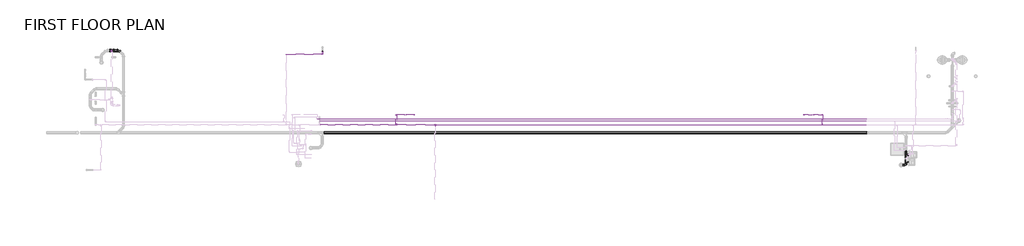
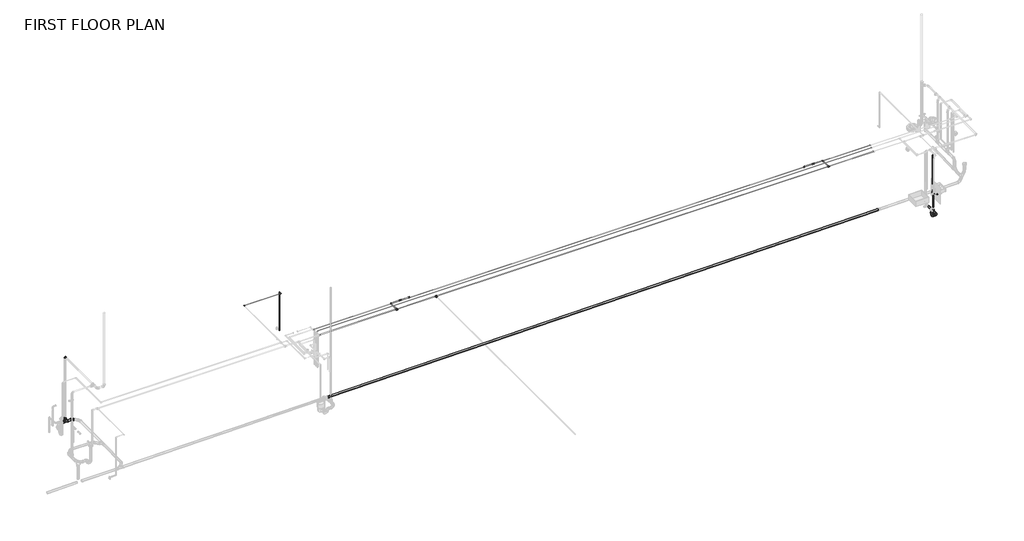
# One storey, part 6 of 9: 29 pipe fittings, 28 pipe segments.
"""IFC4 building model written with IfcOpenShell, lengths in millimetres."""

from ifc_helpers import new_model, si_unit, point, frame, frame_2d, origin, place, context, project, spatial, circle_curve, trimmed, segment, composite_curve, outline, extrude, transform, mapped, element, save
from components import bend_pvc_sch_40_dwv_standard_a4b99d37, bend_pvc_sch_40_dwv_standard_1eaeee76, bend_pvc_sch_40_dwv_standard_2f0b991a, coupling_generic_copper_k_b13a3064, coupling_generic_copper_k_3e2081e2, coupling_concentric_reducing_threaded_mi_class_150_standard_01227178, pipe_elbow_copper_k_feaaf02c, pipe_elbow_copper_k_557be1fc, pipe_elbow_copper_k_aad62f2d, pipe_tee_copper_k_36278b8a, pipe_tee_copper_k_7127fd44, pipe_transition_copper_k_b05302ca, pipe_transition_copper_k_3b8d3413, pipe_transition_copper_k_cb06518f, reducer_pvc_sch_40_dwv_standard_07db09cb, tee_sanitary_pvc_sch_40_dwv_standard_a3f514f4, tee_sanitary_pvc_sch_40_dwv_standard_246ccaa4

model = new_model("IFC4")

# Units and contexts
model_context = context("Model", 3, world=origin())
ifc_project = project(units=[si_unit("LENGTHUNIT", "METRE", prefix="MILLI")], contexts=[model_context])

# Site, building, storey
site = spatial("IfcSite", under=ifc_project)
building = spatial("IfcBuilding", under=site)
storey = spatial("IfcBuildingStorey", under=building, Name="FIRST FLOOR PLAN", Elevation=0.0)

# Pipe fittings
placement = place(None, origin())
bend_pvc_sch_40_dwv_standard_shape = bend_pvc_sch_40_dwv_standard_a4b99d37(model_context)
element("IfcPipeFitting", 1, ObjectType="Bend - PVC - Sch 40 - DWV : Standard", at=placement, inside=storey, context=model_context, shape_type="MappedRepresentation", body=[
    mapped(bend_pvc_sch_40_dwv_standard_shape, transform((34433.0661844, 3290.6230475, -452.4488537), x_axis=(0.0, 0.0, -1.0), y_axis=(1.0, 0.0, 0.0), z_axis=(0.0, -1.0, 0.0))),
])
element("IfcPipeFitting", 2, ObjectType="Bend - PVC - Sch 40 - DWV : Standard", at=placement, inside=storey, context=model_context, shape_type="MappedRepresentation", body=[
    mapped(bend_pvc_sch_40_dwv_standard_shape, transform((34740.284761, 3290.6230475, -452.4488537), x_axis=(1.0, 0.0, 0.0), y_axis=(0.0, 0.9999458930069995, -0.010402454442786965), z_axis=(0.0, 0.010402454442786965, 0.9999458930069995))),
])
bend_pvc_sch_40_dwv_standard_2_shape = bend_pvc_sch_40_dwv_standard_1eaeee76(model_context)
element("IfcPipeFitting", 3, ObjectType="Bend - PVC - Sch 40 - DWV : Standard", at=placement, inside=storey, context=model_context, shape_type="MappedRepresentation", body=[
    mapped(bend_pvc_sch_40_dwv_standard_2_shape, transform((-12967.606428, 10162.1346554, 3161.3463759), x_axis=(0.0, 0.0, 1.0), y_axis=(0.0, -1.0, 0.0), z_axis=(1.0, 0.0, 0.0))),
])
bend_pvc_sch_40_dwv_standard_3_shape = bend_pvc_sch_40_dwv_standard_2f0b991a(model_context)
element("IfcPipeFitting", 4, ObjectType="Bend - PVC - Sch 40 - DWV : Standard", at=placement, inside=storey, context=model_context, shape_type="MappedRepresentation", body=[
    mapped(bend_pvc_sch_40_dwv_standard_3_shape, transform((-12539.9508893, 10162.1496246, -909.2982046), x_axis=(-0.7070887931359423, 0.7070480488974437, 0.01041610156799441), y_axis=(-0.7070120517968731, -0.7071623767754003, 0.0074385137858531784), z_axis=(0.012625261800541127, -0.002104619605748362, 0.9999180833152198))),
])
coupling_generic_copper_k_shape = coupling_generic_copper_k_b13a3064(model_context)
element("IfcPipeFitting", 5, ObjectType="Coupling - Generic : Copper- K", at=placement, inside=storey, context=model_context, shape_type="MappedRepresentation", body=[
    mapped(coupling_generic_copper_k_shape, transform((5223.0550302, 6318.2433828, 2847.5440079), x_axis=(1.0, 0.0, 0.0), y_axis=(0.0, 1.0, 0.0), z_axis=(0.0, 0.0, 1.0))),
])
coupling_generic_copper_k_2_shape = coupling_generic_copper_k_3e2081e2(model_context)
element("IfcPipeFitting", 6, ObjectType="Coupling - Generic : Copper- K", at=placement, inside=storey, context=model_context, shape_type="MappedRepresentation", body=[
    mapped(coupling_generic_copper_k_2_shape, transform((28615.7305388, 6302.1516393, 2847.5440079), x_axis=(-1.0, 0.0, 0.0), y_axis=(0.0, -1.0, 0.0), z_axis=(0.0, 0.0, 1.0))),
])
coupling_concentric_reducing_threaded_mi_class_150_standard_shape = coupling_concentric_reducing_threaded_mi_class_150_standard_01227178(model_context)
element("IfcPipeFitting", 7, ObjectType="Coupling Concentric Reducing - Threaded - MI - Class 150 : Standard", at=placement, inside=storey, context=model_context, shape_type="MappedRepresentation", body=[
    mapped(coupling_concentric_reducing_threaded_mi_class_150_standard_shape, transform((34433.0661844, 3290.6230475, -225.2486537), x_axis=(0.0, 0.0, -1.0), y_axis=(0.0, -1.0, 0.0), z_axis=(-1.0, 0.0, 0.0))),
])
pipe_elbow_copper_k_shape = pipe_elbow_copper_k_feaaf02c(model_context)
element("IfcPipeFitting", 8, ObjectType="Pipe Elbow : Copper- K", at=placement, inside=storey, context=model_context, shape_type="MappedRepresentation", body=[
    mapped(pipe_elbow_copper_k_shape, transform((-301.2378963, 10090.1355294, 410.36875), x_axis=(0.0, -1.0, 0.0), y_axis=(0.0, 0.0, 1.0), z_axis=(-1.0, 0.0, 0.0))),
])
element("IfcPipeFitting", 9, ObjectType="Pipe Elbow : Copper- K", at=placement, inside=storey, context=model_context, shape_type="MappedRepresentation", body=[
    mapped(pipe_elbow_copper_k_shape, transform((-301.2378963, 10090.1355294, 2823.36875), x_axis=(0.0, 0.0, 1.0), y_axis=(0.0, -1.0, 0.0), z_axis=(1.0, 0.0, 0.0))),
])
element("IfcPipeFitting", 10, ObjectType="Pipe Elbow : Copper- K", at=placement, inside=storey, context=model_context, shape_type="MappedRepresentation", body=[
    mapped(pipe_elbow_copper_k_shape, transform((-301.2378963, 9937.7355294, 2823.36875), x_axis=(1.0, 0.0, 0.0), y_axis=(0.0, 1.0, 0.0), z_axis=(0.0, 0.0, 1.0))),
])
element("IfcPipeFitting", 11, ObjectType="Pipe Elbow : Copper- K", at=placement, inside=storey, context=model_context, shape_type="MappedRepresentation", body=[
    mapped(pipe_elbow_copper_k_shape, transform((-2485.6378963, 9937.7355294, 2823.36875), x_axis=(-1.0, 0.0, 0.0), y_axis=(0.0, -1.0, 0.0), z_axis=(0.0, 0.0, 1.0))),
])
pipe_elbow_copper_k_2_shape = pipe_elbow_copper_k_557be1fc(model_context)
element("IfcPipeFitting", 12, ObjectType="Pipe Elbow : Copper- K", at=placement, inside=storey, context=model_context, shape_type="MappedRepresentation", body=[
    mapped(pipe_elbow_copper_k_2_shape, transform((4119.7425302, 6318.2433828, 2847.5440079), x_axis=(-1.0, 0.0, 0.0), y_axis=(0.0, -0.9999999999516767, -9.830902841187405e-06), z_axis=(0.0, -9.830902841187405e-06, 0.9999999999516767))),
])
element("IfcPipeFitting", 13, ObjectType="Pipe Elbow : Copper- K", at=placement, inside=storey, context=model_context, shape_type="MappedRepresentation", body=[
    mapped(pipe_elbow_copper_k_2_shape, transform((29719.0430388, 6302.1516393, 2847.5440505), x_axis=(0.0, 0.9999999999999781, 2.0973754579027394e-07), y_axis=(-0.9999999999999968, 0.0, -8.11703543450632e-08), z_axis=(-8.117035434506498e-08, -2.097375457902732e-07, 0.9999999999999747))),
])
pipe_elbow_copper_k_3_shape = pipe_elbow_copper_k_aad62f2d(model_context)
element("IfcPipeFitting", 14, ObjectType="Pipe Elbow : Copper- K", at=placement, inside=storey, context=model_context, shape_type="MappedRepresentation", body=[
    mapped(pipe_elbow_copper_k_3_shape, transform((34847.4355779, 3935.1645979, 2847.578125), x_axis=(0.0, 0.0, 1.0), y_axis=(1.0, 0.0, 0.0), z_axis=(0.0, 1.0, 0.0))),
])
pipe_tee_copper_k_shape = pipe_tee_copper_k_36278b8a(model_context)
element("IfcPipeFitting", 15, ObjectType="Pipe Tee : Copper- K", at=placement, inside=storey, context=model_context, shape_type="MappedRepresentation", body=[
    mapped(pipe_tee_copper_k_shape, transform((4119.7425302, 5696.5205406, 2847.5440079), x_axis=(-1.0, 0.0, 0.0), y_axis=(0.0, -0.9999999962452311, 8.665758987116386e-05), z_axis=(0.0, 8.665758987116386e-05, 0.9999999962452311))),
])
element("IfcPipeFitting", 16, ObjectType="Pipe Tee : Copper- K", at=placement, inside=storey, context=model_context, shape_type="MappedRepresentation", body=[
    mapped(pipe_tee_copper_k_shape, transform((6453.8921037, 5696.5205406, 2847.5440079), x_axis=(-1.0, 0.0, 0.0), y_axis=(0.0, 0.9999999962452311, -8.665758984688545e-05), z_axis=(0.0, -8.665758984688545e-05, -0.9999999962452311))),
])
pipe_tee_copper_k_2_shape = pipe_tee_copper_k_7127fd44(model_context)
element("IfcPipeFitting", 17, ObjectType="Pipe Tee : Copper- K", at=placement, inside=storey, context=model_context, shape_type="MappedRepresentation", body=[
    mapped(pipe_tee_copper_k_2_shape, transform((29719.0430388, 5696.5205406, 2847.5440079), x_axis=(-1.0, 0.0, 0.0), y_axis=(0.0, -0.9999999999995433, 9.558315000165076e-07), z_axis=(0.0, 9.558315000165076e-07, 0.9999999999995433))),
])
pipe_transition_copper_k_shape = pipe_transition_copper_k_b05302ca(model_context)
element("IfcPipeFitting", 18, ObjectType="Pipe Transition : Copper- K", at=placement, inside=storey, context=model_context, shape_type="MappedRepresentation", body=[
    mapped(pipe_transition_copper_k_shape, transform((4119.7425302, 5739.3830404, 2847.5402935), x_axis=(0.0, 0.9999999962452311, -8.665758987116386e-05), y_axis=(-1.0, 0.0, 0.0), z_axis=(0.0, 8.665758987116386e-05, 0.9999999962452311))),
])
pipe_transition_copper_k_2_shape = pipe_transition_copper_k_3b8d3413(model_context)
element("IfcPipeFitting", 19, ObjectType="Pipe Transition : Copper- K", at=placement, inside=storey, context=model_context, shape_type="MappedRepresentation", body=[
    mapped(pipe_transition_copper_k_2_shape, transform((5209.5612802, 6318.2433828, 2847.5440079), x_axis=(-1.0, 0.0, 0.0), y_axis=(0.0, -1.0, 0.0), z_axis=(0.0, 0.0, 1.0))),
])
element("IfcPipeFitting", 20, ObjectType="Pipe Transition : Copper- K", at=placement, inside=storey, context=model_context, shape_type="MappedRepresentation", body=[
    mapped(pipe_transition_copper_k_2_shape, transform((4721.7701552, 6318.2433828, 2847.5440079), x_axis=(1.0, 0.0, 0.0), y_axis=(0.0, 1.0, 0.0), z_axis=(0.0, 0.0, 1.0))),
])
element("IfcPipeFitting", 21, ObjectType="Pipe Transition : Copper- K", at=placement, inside=storey, context=model_context, shape_type="MappedRepresentation", body=[
    mapped(pipe_transition_copper_k_2_shape, transform((4644.0461552, 6318.2433828, 2847.5440079), x_axis=(-1.0, 0.0, 0.0), y_axis=(0.0, -0.9999997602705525, 0.0006924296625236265), z_axis=(0.0, 0.0006924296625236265, 0.9999997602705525))),
])
element("IfcPipeFitting", 22, ObjectType="Pipe Transition : Copper- K", at=placement, inside=storey, context=model_context, shape_type="MappedRepresentation", body=[
    mapped(pipe_transition_copper_k_2_shape, transform((28629.2242888, 6302.1516393, 2847.5440079), x_axis=(1.0, 0.0, 0.0), y_axis=(0.0, 1.0, 0.0), z_axis=(0.0, 0.0, 1.0))),
])
element("IfcPipeFitting", 23, ObjectType="Pipe Transition : Copper- K", at=placement, inside=storey, context=model_context, shape_type="MappedRepresentation", body=[
    mapped(pipe_transition_copper_k_2_shape, transform((29117.0154138, 6302.1516393, 2847.5440079), x_axis=(-1.0, 0.0, 0.0), y_axis=(0.0, -1.0, 0.0), z_axis=(0.0, 0.0, 1.0))),
])
element("IfcPipeFitting", 24, ObjectType="Pipe Transition : Copper- K", at=placement, inside=storey, context=model_context, shape_type="MappedRepresentation", body=[
    mapped(pipe_transition_copper_k_2_shape, transform((29194.7394138, 6302.1516393, 2847.5440079), x_axis=(1.0, 0.0, 0.0), y_axis=(0.0, 0.9999997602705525, -0.0006924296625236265), z_axis=(0.0, 0.0006924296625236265, 0.9999997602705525))),
])
element("IfcPipeFitting", 25, ObjectType="Pipe Transition : Copper- K", at=placement, inside=storey, context=model_context, shape_type="MappedRepresentation", body=[
    mapped(pipe_transition_copper_k_2_shape, transform((6496.7546037, 5696.5205406, 2847.5440079), x_axis=(1.0, 0.0, 0.0), y_axis=(0.0, 0.9999999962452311, -8.665758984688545e-05), z_axis=(0.0, 8.665758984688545e-05, 0.9999999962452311))),
])
pipe_transition_copper_k_3_shape = pipe_transition_copper_k_cb06518f(model_context)
element("IfcPipeFitting", 26, ObjectType="Pipe Transition : Copper- K", at=placement, inside=storey, context=model_context, shape_type="MappedRepresentation", body=[
    mapped(pipe_transition_copper_k_3_shape, transform((6453.8921037, 5653.6580407, 2847.5477223), x_axis=(0.0, -0.9999999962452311, 8.665758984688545e-05), y_axis=(1.0, 0.0, 0.0), z_axis=(0.0, 8.665758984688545e-05, 0.9999999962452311))),
])
reducer_pvc_sch_40_dwv_standard_shape = reducer_pvc_sch_40_dwv_standard_07db09cb(model_context)
element("IfcPipeFitting", 27, ObjectType="Reducer - PVC - Sch 40 - DWV : Standard", at=placement, inside=storey, context=model_context, shape_type="MappedRepresentation", body=[
    mapped(reducer_pvc_sch_40_dwv_standard_shape, transform((-12967.6221436, 10162.1496246, -761.0233007), x_axis=(0.0, 0.0, 1.0), y_axis=(-1.0, 0.0, 0.0), z_axis=(0.0, -1.0, 0.0))),
])
tee_sanitary_pvc_sch_40_dwv_standard_shape = tee_sanitary_pvc_sch_40_dwv_standard_a3f514f4(model_context)
element("IfcPipeFitting", 28, ObjectType="Tee Sanitary - PVC - Sch 40 - DWV : Standard", at=placement, inside=storey, context=model_context, shape_type="MappedRepresentation", body=[
    mapped(tee_sanitary_pvc_sch_40_dwv_standard_shape, transform((34740.1948035, 3659.4805822, -456.286085), x_axis=(0.0, -0.9999458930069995, 0.010402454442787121), y_axis=(0.0, -0.010402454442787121, -0.9999458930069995), z_axis=(1.0, 0.0, 0.0))),
])
tee_sanitary_pvc_sch_40_dwv_standard_2_shape = tee_sanitary_pvc_sch_40_dwv_standard_246ccaa4(model_context)
element("IfcPipeFitting", 29, ObjectType="Tee Sanitary - PVC - Sch 40 - DWV : Standard", at=placement, inside=storey, context=model_context, shape_type="MappedRepresentation", body=[
    mapped(tee_sanitary_pvc_sch_40_dwv_standard_2_shape, transform((-12967.6221436, 10162.1496246, -903.8983007), x_axis=(-0.9999202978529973, 0.0, 0.012625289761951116), y_axis=(-0.012625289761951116, 0.0, -0.9999202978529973), z_axis=(0.0, -1.0, 0.0))),
])

# Pipe segments
element("IfcPipeSegment", 30, ObjectType="Copper", at=placement, inside=storey, context=model_context, shape_type="SweptSolid", body=[
    extrude(outline(composite_curve([segment(trimmed(circle_curve(frame_2d((0.0, 20.6375)), 20.6375), [point((0.0, 41.275))], [point((20.6375, 20.6375))], False, "CARTESIAN"), True, "CONTINUOUS"), segment(trimmed(circle_curve(frame_2d((0.0, 20.6375)), 20.6375), [point((20.6375, 20.6375))], [point((0.0, 0.0))], False, "CARTESIAN"), True, "CONTINUOUS"), segment(trimmed(circle_curve(frame_2d((0.0, 20.6375)), 20.6375), [point((0.0, 0.0))], [point((-20.6375, 20.6375))], False, "CARTESIAN"), True, "CONTINUOUS"), segment(trimmed(circle_curve(frame_2d((0.0, 20.6375)), 20.6375), [point((-20.6375, 20.6375))], [point((0.0, 41.275))], False, "CARTESIAN"), True, "CONTINUOUS")], self_intersect=False)), frame((4099.1050302, 5752.8767936, 2847.5758337), z_axis=(0.0, 0.9999999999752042, 7.0421431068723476e-06), x_axis=(0.0, -7.0421431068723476e-06, 0.9999999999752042)), (0.0, 0.0, 1.0), 535.2040889),
])
element("IfcPipeSegment", 31, ObjectType="Copper", at=placement, inside=storey, context=model_context, shape_type="SweptSolid", body=[
    extrude(outline(composite_curve([segment(trimmed(circle_curve(frame_2d((6318.2433828, 2847.5440079)), 20.6375), [point((6297.6058828, 2847.5440079))], [point((6318.2433828, 2868.1815079))], False, "CARTESIAN"), True, "CONTINUOUS"), segment(trimmed(circle_curve(frame_2d((6318.2433828, 2847.5440079)), 20.6375), [point((6318.2433828, 2868.1815079))], [point((6338.8808828, 2847.5440079))], False, "CARTESIAN"), True, "CONTINUOUS"), segment(trimmed(circle_curve(frame_2d((6318.2433828, 2847.5440079)), 20.6375), [point((6338.8808828, 2847.5440079))], [point((6318.2433828, 2826.9065079))], False, "CARTESIAN"), True, "CONTINUOUS"), segment(trimmed(circle_curve(frame_2d((6318.2433828, 2847.5440079)), 20.6375), [point((6318.2433828, 2826.9065079))], [point((6297.6058828, 2847.5440079))], False, "CARTESIAN"), True, "CONTINUOUS")], self_intersect=False)), frame((4735.2639052, 0.0, 0.0), z_axis=(1.0, 0.0, 0.0), x_axis=(0.0, 1.0, 0.0)), (0.0, 0.0, 1.0), 460.803625),
])
element("IfcPipeSegment", 32, ObjectType="Copper", at=placement, inside=storey, context=model_context, shape_type="SweptSolid", body=[
    extrude(outline(composite_curve([segment(trimmed(circle_curve(frame_2d((6318.2433828, 2847.5440079)), 20.6375), [point((6297.6058828, 2847.5440079))], [point((6318.2433828, 2868.1815079))], False, "CARTESIAN"), True, "CONTINUOUS"), segment(trimmed(circle_curve(frame_2d((6318.2433828, 2847.5440079)), 20.6375), [point((6318.2433828, 2868.1815079))], [point((6338.8808828, 2847.5440079))], False, "CARTESIAN"), True, "CONTINUOUS"), segment(trimmed(circle_curve(frame_2d((6318.2433828, 2847.5440079)), 20.6375), [point((6338.8808828, 2847.5440079))], [point((6318.2433828, 2826.9065079))], False, "CARTESIAN"), True, "CONTINUOUS"), segment(trimmed(circle_curve(frame_2d((6318.2433828, 2847.5440079)), 20.6375), [point((6318.2433828, 2826.9065079))], [point((6297.6058828, 2847.5440079))], False, "CARTESIAN"), True, "CONTINUOUS")], self_intersect=False)), frame((4149.9050302, 0.0, 0.0), z_axis=(1.0, 0.0, 0.0), x_axis=(0.0, 1.0, 0.0)), (0.0, 0.0, 1.0), 480.647375),
])
element("IfcPipeSegment", 33, ObjectType="Copper", at=placement, inside=storey, context=model_context, shape_type="SweptSolid", body=[
    extrude(outline(composite_curve([segment(trimmed(circle_curve(frame_2d((2847.5440441, 29719.0430388)), 20.6375), [point((2847.5440441, 29698.4055388))], [point((2826.9065441, 29719.0430388))], False, "CARTESIAN"), True, "CONTINUOUS"), segment(trimmed(circle_curve(frame_2d((2847.5440441, 29719.0430388)), 20.6375), [point((2826.9065441, 29719.0430388))], [point((2847.5440441, 29739.6805388))], False, "CARTESIAN"), True, "CONTINUOUS"), segment(trimmed(circle_curve(frame_2d((2847.5440441, 29719.0430388)), 20.6375), [point((2847.5440441, 29739.6805388))], [point((2868.1815441, 29719.0430388))], False, "CARTESIAN"), True, "CONTINUOUS"), segment(trimmed(circle_curve(frame_2d((2847.5440441, 29719.0430388)), 20.6375), [point((2868.1815441, 29719.0430388))], [point((2847.5440441, 29698.4055388))], False, "CARTESIAN"), True, "CONTINUOUS")], self_intersect=False)), frame((0.0, 5733.0330406, 0.0), z_axis=(0.0, 1.0, 0.0), x_axis=(0.0, 0.0, 1.0)), (0.0, 0.0, 1.0), 538.9560987),
])
element("IfcPipeSegment", 34, ObjectType="Copper", at=placement, inside=storey, context=model_context, shape_type="SweptSolid", body=[
    extrude(outline(composite_curve([segment(trimmed(circle_curve(frame_2d((6302.1516393, 2847.5440079)), 20.6375), [point((6322.7891393, 2847.5440079))], [point((6302.1516393, 2826.9065079))], False, "CARTESIAN"), True, "CONTINUOUS"), segment(trimmed(circle_curve(frame_2d((6302.1516393, 2847.5440079)), 20.6375), [point((6302.1516393, 2826.9065079))], [point((6281.5141393, 2847.5440079))], False, "CARTESIAN"), True, "CONTINUOUS"), segment(trimmed(circle_curve(frame_2d((6302.1516393, 2847.5440079)), 20.6375), [point((6281.5141393, 2847.5440079))], [point((6302.1516393, 2868.1815079))], False, "CARTESIAN"), True, "CONTINUOUS"), segment(trimmed(circle_curve(frame_2d((6302.1516393, 2847.5440079)), 20.6375), [point((6302.1516393, 2868.1815079))], [point((6322.7891393, 2847.5440079))], False, "CARTESIAN"), True, "CONTINUOUS")], self_intersect=False)), frame((28642.7180388, 0.0, 0.0), z_axis=(1.0, 0.0, 0.0), x_axis=(0.0, 1.0, 0.0)), (0.0, 0.0, 1.0), 460.803625),
])
element("IfcPipeSegment", 35, ObjectType="Copper", at=placement, inside=storey, context=model_context, shape_type="SweptSolid", body=[
    extrude(outline(composite_curve([segment(trimmed(circle_curve(frame_2d((6302.1516393, 2847.544048)), 20.6375), [point((6322.7891393, 2847.544048))], [point((6302.1516393, 2826.906548))], False, "CARTESIAN"), True, "CONTINUOUS"), segment(trimmed(circle_curve(frame_2d((6302.1516393, 2847.544048)), 20.6375), [point((6302.1516393, 2826.906548))], [point((6281.5141393, 2847.544048))], False, "CARTESIAN"), True, "CONTINUOUS"), segment(trimmed(circle_curve(frame_2d((6302.1516393, 2847.544048)), 20.6375), [point((6281.5141393, 2847.544048))], [point((6302.1516393, 2868.181548))], False, "CARTESIAN"), True, "CONTINUOUS"), segment(trimmed(circle_curve(frame_2d((6302.1516393, 2847.544048)), 20.6375), [point((6302.1516393, 2868.181548))], [point((6322.7891393, 2847.544048))], False, "CARTESIAN"), True, "CONTINUOUS")], self_intersect=False)), frame((29208.2331638, 0.0, 0.0), z_axis=(1.0, 0.0, 0.0), x_axis=(0.0, 1.0, 0.0)), (0.0, 0.0, 1.0), 480.647375),
])
element("IfcPipeSegment", 36, ObjectType="Copper", at=placement, inside=storey, context=model_context, shape_type="SweptSolid", body=[
    extrude(outline(composite_curve([segment(trimmed(circle_curve(frame_2d((5696.5205406, 2847.5440079)), 20.6375), [point((5675.8830406, 2847.5440079))], [point((5696.5205406, 2868.1815079))], False, "CARTESIAN"), True, "CONTINUOUS"), segment(trimmed(circle_curve(frame_2d((5696.5205406, 2847.5440079)), 20.6375), [point((5696.5205406, 2868.1815079))], [point((5717.1580406, 2847.5440079))], False, "CARTESIAN"), True, "CONTINUOUS"), segment(trimmed(circle_curve(frame_2d((5696.5205406, 2847.5440079)), 20.6375), [point((5717.1580406, 2847.5440079))], [point((5696.5205406, 2826.9065079))], False, "CARTESIAN"), True, "CONTINUOUS"), segment(trimmed(circle_curve(frame_2d((5696.5205406, 2847.5440079)), 20.6375), [point((5696.5205406, 2826.9065079))], [point((5675.8830406, 2847.5440079))], False, "CARTESIAN"), True, "CONTINUOUS")], self_intersect=False)), frame((6510.2483537, 0.0, 0.0), z_axis=(1.0, 0.0, 0.0), x_axis=(0.0, 1.0, 0.0)), (0.0, 0.0, 1.0), 23172.2821851),
])
element("IfcPipeSegment", 37, ObjectType="Copper", at=placement, inside=storey, context=model_context, shape_type="SweptSolid", body=[
    extrude(outline(composite_curve([segment(trimmed(circle_curve(frame_2d((5696.5205406, 2847.5440079)), 26.9875), [point((5669.5330406, 2847.5440079))], [point((5696.5205406, 2874.5315079))], False, "CARTESIAN"), True, "CONTINUOUS"), segment(trimmed(circle_curve(frame_2d((5696.5205406, 2847.5440079)), 26.9875), [point((5696.5205406, 2874.5315079))], [point((5723.5080406, 2847.5440079))], False, "CARTESIAN"), True, "CONTINUOUS"), segment(trimmed(circle_curve(frame_2d((5696.5205406, 2847.5440079)), 26.9875), [point((5723.5080406, 2847.5440079))], [point((5696.5205406, 2820.5565079))], False, "CARTESIAN"), True, "CONTINUOUS"), segment(trimmed(circle_curve(frame_2d((5696.5205406, 2847.5440079)), 26.9875), [point((5696.5205406, 2820.5565079))], [point((5669.5330406, 2847.5440079))], False, "CARTESIAN"), True, "CONTINUOUS")], self_intersect=False)), frame((4162.6050302, 0.0, 0.0), z_axis=(1.0, 0.0, 0.0), x_axis=(0.0, 1.0, 0.0)), (0.0, 0.0, 1.0), 2248.4245735),
])
element("IfcPipeSegment", 38, ObjectType="Copper", at=placement, inside=storey, context=model_context, shape_type="SweptSolid", body=[
    extrude(outline(composite_curve([segment(trimmed(circle_curve(frame_2d((6059.1974224, 3007.2229223)), 11.1125), [point((6070.3099224, 3007.2229223))], [point((6059.1974224, 2996.1104223))], False, "CARTESIAN"), True, "CONTINUOUS"), segment(trimmed(circle_curve(frame_2d((6059.1974224, 3007.2229223)), 11.1125), [point((6059.1974224, 2996.1104223))], [point((6048.0849224, 3007.2229223))], False, "CARTESIAN"), True, "CONTINUOUS"), segment(trimmed(circle_curve(frame_2d((6059.1974224, 3007.2229223)), 11.1125), [point((6048.0849224, 3007.2229223))], [point((6059.1974224, 3018.3354223))], False, "CARTESIAN"), True, "CONTINUOUS"), segment(trimmed(circle_curve(frame_2d((6059.1974224, 3007.2229223)), 11.1125), [point((6059.1974224, 3018.3354223))], [point((6070.3099224, 3007.2229223))], False, "CARTESIAN"), True, "CONTINUOUS")], self_intersect=False)), frame((-610.8003963, 0.0, 0.0), z_axis=(1.0, 0.0, 0.0), x_axis=(0.0, 1.0, 0.0)), (0.0, 0.0, 1.0), 33018.8000381),
])
element("IfcPipeSegment", 39, ObjectType="Copper", at=placement, inside=storey, context=model_context, shape_type="SweptSolid", body=[
    extrude(outline(composite_curve([segment(trimmed(circle_curve(frame_2d((5928.9468422, 2942.828125)), 17.4625), [point((5946.4093422, 2942.828125))], [point((5928.9468422, 2925.365625))], False, "CARTESIAN"), True, "CONTINUOUS"), segment(trimmed(circle_curve(frame_2d((5928.9468422, 2942.828125)), 17.4625), [point((5928.9468422, 2925.365625))], [point((5911.4843422, 2942.828125))], False, "CARTESIAN"), True, "CONTINUOUS"), segment(trimmed(circle_curve(frame_2d((5928.9468422, 2942.828125)), 17.4625), [point((5911.4843422, 2942.828125))], [point((5928.9468422, 2960.290625))], False, "CARTESIAN"), True, "CONTINUOUS"), segment(trimmed(circle_curve(frame_2d((5928.9468422, 2942.828125)), 17.4625), [point((5928.9468422, 2960.290625))], [point((5946.4093422, 2942.828125))], False, "CARTESIAN"), True, "CONTINUOUS")], self_intersect=False)), frame((-464.4189749, 0.0, 0.0), z_axis=(1.0, 0.0, 0.0), x_axis=(0.0, 1.0, 0.0)), (0.0, 0.0, 1.0), 32861.4810677),
])
element("IfcPipeSegment", 40, ObjectType="Copper", at=placement, inside=storey, context=model_context, shape_type="SweptSolid", body=[
    extrude(outline(composite_curve([segment(trimmed(circle_curve(frame_2d((34847.4355779, 3935.1645979)), 7.9375), [point((34855.3730779, 3935.1645979))], [point((34847.4355779, 3927.2270979))], False, "CARTESIAN"), True, "CONTINUOUS"), segment(trimmed(circle_curve(frame_2d((34847.4355779, 3935.1645979)), 7.9375), [point((34847.4355779, 3927.2270979))], [point((34839.4980779, 3935.1645979))], False, "CARTESIAN"), True, "CONTINUOUS"), segment(trimmed(circle_curve(frame_2d((34847.4355779, 3935.1645979)), 7.9375), [point((34839.4980779, 3935.1645979))], [point((34847.4355779, 3943.1020979))], False, "CARTESIAN"), True, "CONTINUOUS"), segment(trimmed(circle_curve(frame_2d((34847.4355779, 3935.1645979)), 7.9375), [point((34847.4355779, 3943.1020979))], [point((34855.3730779, 3935.1645979))], False, "CARTESIAN"), True, "CONTINUOUS")], self_intersect=False)), frame((0.0, 0.0, 1036.1671981), z_axis=(0.0, 0.0, 1.0), x_axis=(1.0, 0.0, 0.0)), (0.0, 0.0, 1.0), 1793.9484269),
])
element("IfcPipeSegment", 41, ObjectType="Copper", at=placement, inside=storey, context=model_context, shape_type="SweptSolid", body=[
    extrude(outline(composite_curve([segment(trimmed(circle_curve(frame_2d((5696.5205406, 2847.5440079)), 20.6375), [point((5675.8830406, 2847.5440079))], [point((5696.5205406, 2868.1815079))], False, "CARTESIAN"), True, "CONTINUOUS"), segment(trimmed(circle_curve(frame_2d((5696.5205406, 2847.5440079)), 20.6375), [point((5696.5205406, 2868.1815079))], [point((5717.1580406, 2847.5440079))], False, "CARTESIAN"), True, "CONTINUOUS"), segment(trimmed(circle_curve(frame_2d((5696.5205406, 2847.5440079)), 20.6375), [point((5717.1580406, 2847.5440079))], [point((5696.5205406, 2826.9065079))], False, "CARTESIAN"), True, "CONTINUOUS"), segment(trimmed(circle_curve(frame_2d((5696.5205406, 2847.5440079)), 20.6375), [point((5696.5205406, 2826.9065079))], [point((5675.8830406, 2847.5440079))], False, "CARTESIAN"), True, "CONTINUOUS")], self_intersect=False)), frame((29755.5555388, 0.0, 0.0), z_axis=(1.0, 0.0, 0.0), x_axis=(0.0, 1.0, 0.0)), (0.0, 0.0, 1.0), 2645.872179),
])
element("IfcPipeSegment", 42, ObjectType="Copper", at=placement, inside=storey, context=model_context, shape_type="SweptSolid", body=[
    extrude(outline(composite_curve([segment(trimmed(circle_curve(frame_2d((410.36875, -301.2378963)), 11.1125), [point((410.36875, -312.3503963))], [point((399.25625, -301.2378963))], False, "CARTESIAN"), True, "CONTINUOUS"), segment(trimmed(circle_curve(frame_2d((410.36875, -301.2378963)), 11.1125), [point((399.25625, -301.2378963))], [point((410.36875, -290.1253963))], False, "CARTESIAN"), True, "CONTINUOUS"), segment(trimmed(circle_curve(frame_2d((410.36875, -301.2378963)), 11.1125), [point((410.36875, -290.1253963))], [point((421.48125, -301.2378963))], False, "CARTESIAN"), True, "CONTINUOUS"), segment(trimmed(circle_curve(frame_2d((410.36875, -301.2378963)), 11.1125), [point((421.48125, -301.2378963))], [point((410.36875, -312.3503963))], False, "CARTESIAN"), True, "CONTINUOUS")], self_intersect=False)), frame((0.0, 10110.7730294, 0.0), z_axis=(0.0, 1.0, 0.0), x_axis=(0.0, 0.0, 1.0)), (0.0, 0.0, 1.0), 17.4625),
])
element("IfcPipeSegment", 43, ObjectType="Copper", at=placement, inside=storey, context=model_context, shape_type="SweptSolid", body=[
    extrude(outline(composite_curve([segment(trimmed(circle_curve(frame_2d((-301.2378963, 10090.1355294)), 11.1125), [point((-312.3503963, 10090.1355294))], [point((-301.2378963, 10101.2480294))], False, "CARTESIAN"), True, "CONTINUOUS"), segment(trimmed(circle_curve(frame_2d((-301.2378963, 10090.1355294)), 11.1125), [point((-301.2378963, 10101.2480294))], [point((-290.1253963, 10090.1355294))], False, "CARTESIAN"), True, "CONTINUOUS"), segment(trimmed(circle_curve(frame_2d((-301.2378963, 10090.1355294)), 11.1125), [point((-290.1253963, 10090.1355294))], [point((-301.2378963, 10079.0230294))], False, "CARTESIAN"), True, "CONTINUOUS"), segment(trimmed(circle_curve(frame_2d((-301.2378963, 10090.1355294)), 11.1125), [point((-301.2378963, 10079.0230294))], [point((-312.3503963, 10090.1355294))], False, "CARTESIAN"), True, "CONTINUOUS")], self_intersect=False)), frame((0.0, 0.0, 431.00625), z_axis=(0.0, 0.0, 1.0), x_axis=(1.0, 0.0, 0.0)), (0.0, 0.0, 1.0), 2371.725),
])
element("IfcPipeSegment", 44, ObjectType="Copper", at=placement, inside=storey, context=model_context, shape_type="SweptSolid", body=[
    extrude(outline(composite_curve([segment(trimmed(circle_curve(frame_2d((2823.36875, -301.2378963)), 11.1125), [point((2823.36875, -312.3503963))], [point((2812.25625, -301.2378963))], False, "CARTESIAN"), True, "CONTINUOUS"), segment(trimmed(circle_curve(frame_2d((2823.36875, -301.2378963)), 11.1125), [point((2812.25625, -301.2378963))], [point((2823.36875, -290.1253963))], False, "CARTESIAN"), True, "CONTINUOUS"), segment(trimmed(circle_curve(frame_2d((2823.36875, -301.2378963)), 11.1125), [point((2823.36875, -290.1253963))], [point((2834.48125, -301.2378963))], False, "CARTESIAN"), True, "CONTINUOUS"), segment(trimmed(circle_curve(frame_2d((2823.36875, -301.2378963)), 11.1125), [point((2834.48125, -301.2378963))], [point((2823.36875, -312.3503963))], False, "CARTESIAN"), True, "CONTINUOUS")], self_intersect=False)), frame((0.0, 9958.3730294, 0.0), z_axis=(0.0, 1.0, 0.0), x_axis=(0.0, 0.0, 1.0)), (0.0, 0.0, 1.0), 111.125),
])
element("IfcPipeSegment", 45, ObjectType="Copper", at=placement, inside=storey, context=model_context, shape_type="SweptSolid", body=[
    extrude(outline(composite_curve([segment(trimmed(circle_curve(frame_2d((5696.5205406, 2847.5440079)), 26.9875), [point((5723.5080406, 2847.5440079))], [point((5696.5205406, 2820.5565079))], False, "CARTESIAN"), True, "CONTINUOUS"), segment(trimmed(circle_curve(frame_2d((5696.5205406, 2847.5440079)), 26.9875), [point((5696.5205406, 2820.5565079))], [point((5669.5330406, 2847.5440079))], False, "CARTESIAN"), True, "CONTINUOUS"), segment(trimmed(circle_curve(frame_2d((5696.5205406, 2847.5440079)), 26.9875), [point((5669.5330406, 2847.5440079))], [point((5696.5205406, 2874.5315079))], False, "CARTESIAN"), True, "CONTINUOUS"), segment(trimmed(circle_curve(frame_2d((5696.5205406, 2847.5440079)), 26.9875), [point((5696.5205406, 2874.5315079))], [point((5723.5080406, 2847.5440079))], False, "CARTESIAN"), True, "CONTINUOUS")], self_intersect=False)), frame((-448.5439749, 0.0, 0.0), z_axis=(1.0, 0.0, 0.0), x_axis=(0.0, 1.0, 0.0)), (0.0, 0.0, 1.0), 4525.4240051),
])
element("IfcPipeSegment", 46, ObjectType="Copper", at=placement, inside=storey, context=model_context, shape_type="SweptSolid", body=[
    extrude(outline(composite_curve([segment(trimmed(circle_curve(frame_2d((9937.7355294, 2823.36875)), 11.1125), [point((9948.8480294, 2823.36875))], [point((9937.7355294, 2812.25625))], False, "CARTESIAN"), True, "CONTINUOUS"), segment(trimmed(circle_curve(frame_2d((9937.7355294, 2823.36875)), 11.1125), [point((9937.7355294, 2812.25625))], [point((9926.6230294, 2823.36875))], False, "CARTESIAN"), True, "CONTINUOUS"), segment(trimmed(circle_curve(frame_2d((9937.7355294, 2823.36875)), 11.1125), [point((9926.6230294, 2823.36875))], [point((9937.7355294, 2834.48125))], False, "CARTESIAN"), True, "CONTINUOUS"), segment(trimmed(circle_curve(frame_2d((9937.7355294, 2823.36875)), 11.1125), [point((9937.7355294, 2834.48125))], [point((9948.8480294, 2823.36875))], False, "CARTESIAN"), True, "CONTINUOUS")], self_intersect=False)), frame((-2465.0003963, 0.0, 0.0), z_axis=(1.0, 0.0, 0.0), x_axis=(0.0, 1.0, 0.0)), (0.0, 0.0, 1.0), 2143.125),
])
element("IfcPipeSegment", 47, ObjectType="PVC - SAN/STORM", at=placement, inside=storey, context=model_context, shape_type="SweptSolid", body=[
    extrude(outline(composite_curve([segment(trimmed(circle_curve(frame_2d((3853.5783282, 669.1225827)), 24.13), [point((3829.4483282, 669.1225827))], [point((3853.5783282, 693.2525827))], False, "CARTESIAN"), True, "CONTINUOUS"), segment(trimmed(circle_curve(frame_2d((3853.5783282, 669.1225827)), 24.13), [point((3853.5783282, 693.2525827))], [point((3877.7083282, 669.1225827))], False, "CARTESIAN"), True, "CONTINUOUS"), segment(trimmed(circle_curve(frame_2d((3853.5783282, 669.1225827)), 24.13), [point((3877.7083282, 669.1225827))], [point((3853.5783282, 644.9925827))], False, "CARTESIAN"), True, "CONTINUOUS"), segment(trimmed(circle_curve(frame_2d((3853.5783282, 669.1225827)), 24.13), [point((3853.5783282, 644.9925827))], [point((3829.4483282, 669.1225827))], False, "CARTESIAN"), True, "CONTINUOUS")], self_intersect=False)), frame((34802.0724669, 0.0, 0.0), z_axis=(1.0, 0.0, 0.0), x_axis=(0.0, 1.0, 0.0)), (0.0, 0.0, 1.0), 235.293461),
])
element("IfcPipeSegment", 48, ObjectType="PVC - SAN/STORM", at=placement, inside=storey, context=model_context, shape_type="SweptSolid", body=[
    extrude(outline(composite_curve([segment(trimmed(circle_curve(frame_2d((3470.2605294, 669.1225827)), 24.13), [point((3494.3905294, 669.1225827))], [point((3470.2605294, 644.9925827))], False, "CARTESIAN"), True, "CONTINUOUS"), segment(trimmed(circle_curve(frame_2d((3470.2605294, 669.1225827)), 24.13), [point((3470.2605294, 644.9925827))], [point((3446.1305294, 669.1225827))], False, "CARTESIAN"), True, "CONTINUOUS"), segment(trimmed(circle_curve(frame_2d((3470.2605294, 669.1225827)), 24.13), [point((3446.1305294, 669.1225827))], [point((3470.2605294, 693.2525827))], False, "CARTESIAN"), True, "CONTINUOUS"), segment(trimmed(circle_curve(frame_2d((3470.2605294, 669.1225827)), 24.13), [point((3470.2605294, 693.2525827))], [point((3494.3905294, 669.1225827))], False, "CARTESIAN"), True, "CONTINUOUS")], self_intersect=False)), frame((34802.0724669, 0.0, 0.0), z_axis=(1.0, 0.0, 0.0), x_axis=(0.0, 1.0, 0.0)), (0.0, 0.0, 1.0), 160.7840288),
])
element("IfcPipeSegment", 49, ObjectType="PVC - SAN/STORM", at=placement, inside=storey, context=model_context, shape_type="SweptSolid", body=[
    extrude(outline(composite_curve([segment(trimmed(circle_curve(frame_2d((0.0, 24.13)), 24.13), [point((-24.13, 24.13))], [point((0.0, 48.26))], False, "CARTESIAN"), True, "CONTINUOUS"), segment(trimmed(circle_curve(frame_2d((0.0, 24.13)), 24.13), [point((0.0, 48.26))], [point((24.13, 24.13))], False, "CARTESIAN"), True, "CONTINUOUS"), segment(trimmed(circle_curve(frame_2d((0.0, 24.13)), 24.13), [point((24.13, 24.13))], [point((0.0, 0.0))], False, "CARTESIAN"), True, "CONTINUOUS"), segment(trimmed(circle_curve(frame_2d((0.0, 24.13)), 24.13), [point((0.0, 0.0))], [point((-24.13, 24.13))], False, "CARTESIAN"), True, "CONTINUOUS")], self_intersect=False)), frame((34740.1948035, 3635.3505822, -246.686137), z_axis=(1.0455634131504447e-05, -1.043953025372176e-05, 0.9999999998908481), x_axis=(0.99999999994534, 1.0915179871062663e-10, -1.04556341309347e-05)), (0.0, 0.0, 1.0), 811.4398678),
])
element("IfcPipeSegment", 50, ObjectType="PVC - SAN/STORM", at=placement, inside=storey, context=model_context, shape_type="SweptSolid", body=[
    extrude(outline(composite_curve([segment(trimmed(circle_curve(frame_2d((669.1225827, 34740.2032876)), 24.13), [point((669.1225827, 34716.0732876))], [point((644.9925827, 34740.2032876))], False, "CARTESIAN"), True, "CONTINUOUS"), segment(trimmed(circle_curve(frame_2d((669.1225827, 34740.2032876)), 24.13), [point((644.9925827, 34740.2032876))], [point((669.1225827, 34764.3332876))], False, "CARTESIAN"), True, "CONTINUOUS"), segment(trimmed(circle_curve(frame_2d((669.1225827, 34740.2032876)), 24.13), [point((669.1225827, 34764.3332876))], [point((693.2525827, 34740.2032876))], False, "CARTESIAN"), True, "CONTINUOUS"), segment(trimmed(circle_curve(frame_2d((669.1225827, 34740.2032876)), 24.13), [point((693.2525827, 34740.2032876))], [point((669.1225827, 34716.0732876))], False, "CARTESIAN"), True, "CONTINUOUS")], self_intersect=False)), frame((0.0, 3532.1603294, 0.0), z_axis=(0.0, 1.0, 0.0), x_axis=(0.0, 0.0, 1.0)), (0.0, 0.0, 1.0), 25.3307818),
])
element("IfcPipeSegment", 51, ObjectType="PVC - SAN/STORM", at=placement, inside=storey, context=model_context, shape_type="SweptSolid", body=[
    extrude(outline(composite_curve([segment(trimmed(circle_curve(frame_2d((669.1225827, 34740.2032876)), 24.13), [point((669.1225827, 34716.0732876))], [point((644.9925827, 34740.2032876))], False, "CARTESIAN"), True, "CONTINUOUS"), segment(trimmed(circle_curve(frame_2d((669.1225827, 34740.2032876)), 24.13), [point((644.9925827, 34740.2032876))], [point((669.1225827, 34764.3332876))], False, "CARTESIAN"), True, "CONTINUOUS"), segment(trimmed(circle_curve(frame_2d((669.1225827, 34740.2032876)), 24.13), [point((669.1225827, 34764.3332876))], [point((693.2525827, 34740.2032876))], False, "CARTESIAN"), True, "CONTINUOUS"), segment(trimmed(circle_curve(frame_2d((669.1225827, 34740.2032876)), 24.13), [point((693.2525827, 34740.2032876))], [point((669.1225827, 34716.0732876))], False, "CARTESIAN"), True, "CONTINUOUS")], self_intersect=False)), frame((0.0, 3761.4531111, 0.0), z_axis=(0.0, 1.0, 0.0), x_axis=(0.0, 0.0, 1.0)), (0.0, 0.0, 1.0), 30.225417),
])
element("IfcPipeSegment", 52, ObjectType="PVC - SAN/STORM", at=placement, inside=storey, context=model_context, shape_type="SweptSolid", body=[
    extrude(outline(composite_curve([segment(trimmed(circle_curve(frame_2d((0.0, -57.15)), 57.15), [point((-57.15, -57.15))], [point((0.0, 0.0))], False, "CARTESIAN"), True, "CONTINUOUS"), segment(trimmed(circle_curve(frame_2d((0.0, -57.15)), 57.15), [point((0.0, 0.0))], [point((57.15, -57.15))], False, "CARTESIAN"), True, "CONTINUOUS"), segment(trimmed(circle_curve(frame_2d((0.0, -57.15)), 57.15), [point((57.15, -57.15))], [point((0.0, -114.3))], False, "CARTESIAN"), True, "CONTINUOUS"), segment(trimmed(circle_curve(frame_2d((0.0, -57.15)), 57.15), [point((0.0, -114.3))], [point((-57.15, -57.15))], False, "CARTESIAN"), True, "CONTINUOUS")], self_intersect=False)), frame((34433.0661844, 3233.4730483, -225.2582169), z_axis=(0.0, -0.00016733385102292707, 0.9999999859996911), x_axis=(-1.0, 0.0, 0.0)), (0.0, 0.0, 1.0), 50.6236544),
])
element("IfcPipeSegment", 53, ObjectType="PVC - SAN/STORM", at=placement, inside=storey, context=model_context, shape_type="SweptSolid", body=[
    extrude(outline(composite_curve([segment(trimmed(circle_curve(frame_2d((3290.6230475, -452.4488537)), 44.45), [point((3246.1730475, -452.4488537))], [point((3290.6230475, -407.9988537))], False, "CARTESIAN"), True, "CONTINUOUS"), segment(trimmed(circle_curve(frame_2d((3290.6230475, -452.4488537)), 44.45), [point((3290.6230475, -407.9988537))], [point((3335.0730475, -452.4488537))], False, "CARTESIAN"), True, "CONTINUOUS"), segment(trimmed(circle_curve(frame_2d((3290.6230475, -452.4488537)), 44.45), [point((3335.0730475, -452.4488537))], [point((3290.6230475, -496.8988537))], False, "CARTESIAN"), True, "CONTINUOUS"), segment(trimmed(circle_curve(frame_2d((3290.6230475, -452.4488537)), 44.45), [point((3290.6230475, -496.8988537))], [point((3246.1730475, -452.4488537))], False, "CARTESIAN"), True, "CONTINUOUS")], self_intersect=False)), frame((34548.9663844, 0.0, 0.0), z_axis=(1.0, 0.0, 0.0), x_axis=(0.0, 1.0, 0.0)), (0.0, 0.0, 1.0), 75.4181765),
])
element("IfcPipeSegment", 54, ObjectType="PVC - SAN/STORM", at=placement, inside=storey, context=model_context, shape_type="SweptSolid", body=[
    extrude(outline(composite_curve([segment(trimmed(circle_curve(frame_2d((0.0, 44.45)), 44.45), [point((-44.45, 44.449746))], [point((-0.0002539, 88.9))], False, "CARTESIAN"), True, "CONTINUOUS"), segment(trimmed(circle_curve(frame_2d((0.0, 44.45)), 44.45), [point((-0.0002539, 88.9))], [point((44.45, 44.4502539))], False, "CARTESIAN"), True, "CONTINUOUS"), segment(trimmed(circle_curve(frame_2d((0.0, 44.45)), 44.45), [point((44.45, 44.4502539))], [point((0.000254, 0.0))], False, "CARTESIAN"), True, "CONTINUOUS"), segment(trimmed(circle_curve(frame_2d((0.0, 44.45)), 44.45), [point((0.000254, 0.0))], [point((-44.45, 44.449746))], False, "CARTESIAN"), True, "CONTINUOUS")], self_intersect=False)), frame((34740.1948035, 3569.8498247, -499.8060599), z_axis=(0.0005491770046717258, -0.9999457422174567, 0.010402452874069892), x_axis=(0.9999998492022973, 0.0005491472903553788, -5.712788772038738e-06)), (0.0, 0.0, 1.0), 163.804125),
])
element("IfcPipeSegment", 55, ObjectType="PVC - SAN/STORM", at=placement, inside=storey, context=model_context, shape_type="SweptSolid", body=[
    extrude(outline(composite_curve([segment(trimmed(circle_curve(frame_2d((0.0, 44.4500001)), 44.45), [point((-44.45, 44.4501124))], [point((0.0001123, 88.9))], False, "CARTESIAN"), True, "CONTINUOUS"), segment(trimmed(circle_curve(frame_2d((0.0, 44.4500001)), 44.45), [point((0.0001123, 88.9))], [point((44.45, 44.4498877))], False, "CARTESIAN"), True, "CONTINUOUS"), segment(trimmed(circle_curve(frame_2d((0.0, 44.4500001)), 44.45), [point((44.45, 44.4498877))], [point((-0.0001124, 0.0))], False, "CARTESIAN"), True, "CONTINUOUS"), segment(trimmed(circle_curve(frame_2d((0.0, 44.4500001)), 44.45), [point((-0.0001124, 0.0))], [point((-44.45, 44.4501124))], False, "CARTESIAN"), True, "CONTINUOUS")], self_intersect=False)), frame((34740.284761, 4145.1568135, -505.7909885), z_axis=(-0.00024295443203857, -0.9999458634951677, 0.010402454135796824), x_axis=(0.9999999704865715, -0.00024294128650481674, 2.5273224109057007e-06)), (0.0, 0.0, 1.0), 370.2647363),
])
element("IfcPipeSegment", 56, ObjectType="PVC - SAN/STORM", at=placement, inside=storey, context=model_context, shape_type="SweptSolid", body=[
    extrude(outline(composite_curve([segment(trimmed(circle_curve(frame_2d((0.0, 57.15)), 57.15), [point((0.0, 114.3))], [point((57.15, 57.15))], False, "CARTESIAN"), True, "CONTINUOUS"), segment(trimmed(circle_curve(frame_2d((0.0, 57.15)), 57.15), [point((57.15, 57.15))], [point((0.0, 0.0))], False, "CARTESIAN"), True, "CONTINUOUS"), segment(trimmed(circle_curve(frame_2d((0.0, 57.15)), 57.15), [point((0.0, 0.0))], [point((-57.15, 57.15))], False, "CARTESIAN"), True, "CONTINUOUS"), segment(trimmed(circle_curve(frame_2d((0.0, 57.15)), 57.15), [point((-57.15, 57.15))], [point((0.0, 114.3))], False, "CARTESIAN"), True, "CONTINUOUS")], self_intersect=False)), frame((-12639.9681171, 10104.9996246, -908.0353575), z_axis=(-0.9999202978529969, 0.0, 0.012625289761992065), x_axis=(0.012625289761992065, 0.0, 0.9999202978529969)), (0.0, 0.0, 1.0), 184.8051433),
])
element("IfcPipeSegment", 57, ObjectType="PVC - SAN/STORM", at=placement, inside=storey, context=model_context, shape_type="SweptSolid", body=[
    extrude(outline(composite_curve([segment(trimmed(circle_curve(frame_2d((0.0, -57.15)), 57.15), [point((0.0, 0.0))], [point((57.15, -57.15))], False, "CARTESIAN"), True, "CONTINUOUS"), segment(trimmed(circle_curve(frame_2d((0.0, -57.15)), 57.15), [point((57.15, -57.15))], [point((0.0, -114.3))], False, "CARTESIAN"), True, "CONTINUOUS"), segment(trimmed(circle_curve(frame_2d((0.0, -57.15)), 57.15), [point((0.0, -114.3))], [point((-57.1499999, -57.15))], False, "CARTESIAN"), True, "CONTINUOUS"), segment(trimmed(circle_curve(frame_2d((0.0, -57.15)), 57.15), [point((-57.1499999, -57.15))], [point((0.0, 0.0))], False, "CARTESIAN"), True, "CONTINUOUS")], self_intersect=False)), frame((-239.892275, 5284.0778226, -833.2441271), z_axis=(0.9999457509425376, 0.0, 0.010416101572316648), x_axis=(0.010416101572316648, 0.0, -0.9999457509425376)), (0.0, 0.0, 1.0), 32617.9935362),
])

save(model, "model.ifc")
